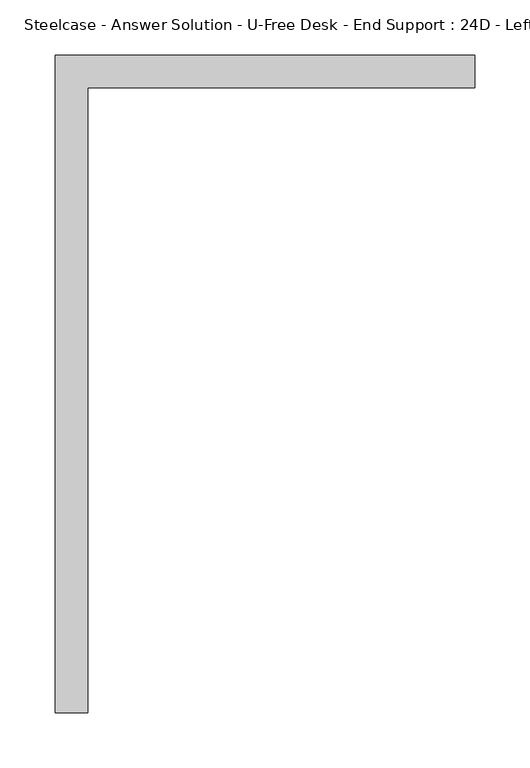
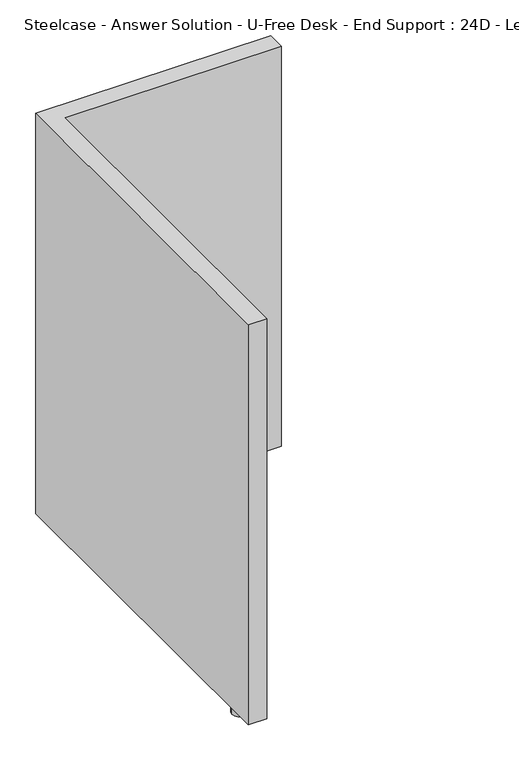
"""IFC4 building model written with IfcOpenShell, lengths in millimetres: furniture geometry, Steelcase - Answer Solution - U-Free Desk - End Support : 24D - Left."""

from ifc_helpers import new_model, si_unit, point, frame, frame_2d, origin, origin_with_axes, place, context, project, spatial, polyline, circle_curve, trimmed, segment, composite_curve, outline, extrude, source, transform, mapped, element, save


def steelcase_answer_solution_u_free_desk_end_support_24d_left_3a62796d(model_context):
    return source(origin(), model_context, "Body", "SweptSolid", [
        extrude(outline(composite_curve([segment(trimmed(circle_curve(frame_2d((18.1392399, -548.4767813)), 12.7), [point((5.4392399, -548.4767813))], [point((30.8392399, -548.4767813))], False, "CARTESIAN"), True, "CONTINUOUS"), segment(trimmed(circle_curve(frame_2d((18.1392399, -548.4767813)), 12.7), [point((30.8392399, -548.4767813))], [point((5.4392399, -548.4767813))], False, "CARTESIAN"), True, "CONTINUOUS")], self_intersect=False)), origin_with_axes(), (0.0, 0.0, 1.0), 12.7000004),
        extrude(outline(polyline([(384.1009381, -2.0011718), (384.1009381, -31.6936406), (32.8951368, -31.6936406), (32.8951368, -598.9011718), (3.1009381, -598.9011718), (3.1009381, -2.0011718), (384.1009381, -2.0011718)])), frame((0.0, 0.0, 12.7000004), z_axis=(0.0, 0.0, 1.0), x_axis=(1.0, 0.0, 0.0)), (0.0, 0.0, 1.0), 685.8),
    ])


if __name__ == "__main__":
    model = new_model("IFC4")
    model_context = context("Model", 3, world=origin())
    ifc_project = project(units=[si_unit("LENGTHUNIT", "METRE", prefix="MILLI")], contexts=[model_context])
    site = spatial("IfcSite", under=ifc_project)
    building = spatial("IfcBuilding", under=site)
    placement = place(None, origin())
    steelcase_answer_solution_u_free_desk_end_support_24d_left_shape = steelcase_answer_solution_u_free_desk_end_support_24d_left_3a62796d(model_context)
    element("IfcFurniture", 1, ObjectType="Steelcase - Answer Solution - U-Free Desk - End Support : 24D - Left", at=placement, inside=building, context=model_context, shape_type="MappedRepresentation", body=[
        mapped(steelcase_answer_solution_u_free_desk_end_support_24d_left_shape, transform((0.0, 0.0, 0.0), x_axis=(1.0, 0.0, 0.0), y_axis=(0.0, 1.0, 0.0), z_axis=(0.0, 0.0, 1.0))),
    ])
    save(model, "model.ifc")
